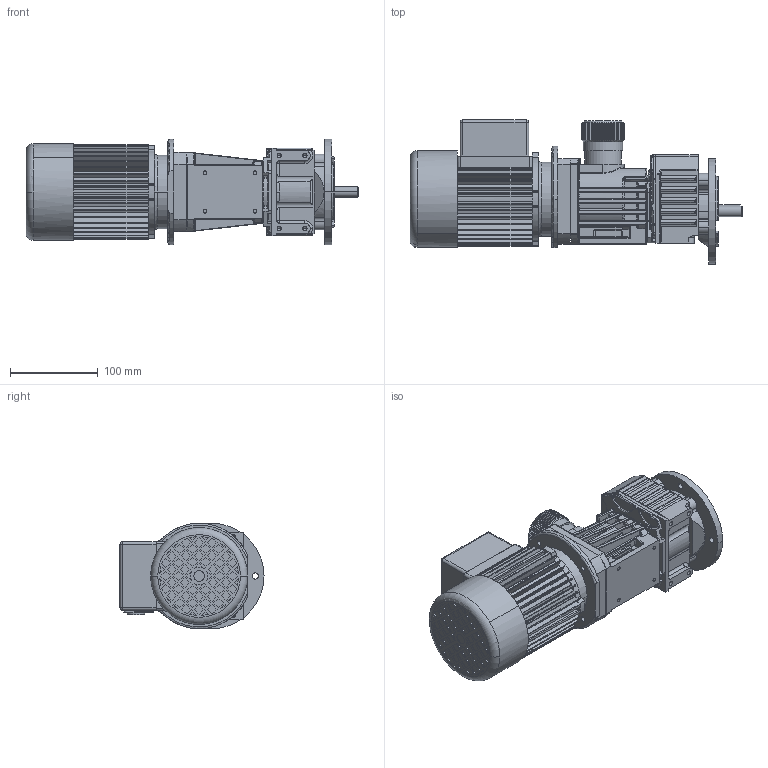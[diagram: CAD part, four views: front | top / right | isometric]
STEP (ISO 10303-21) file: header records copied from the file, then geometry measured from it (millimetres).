
FILE_DESCRIPTION(('CoCreate Modeling STEP Export'),'2;1');
FILE_NAME('K22_BF_B5_Standardstelleinrichtung_180W_Motor.stp','2010-09-07T13:42:48',(''),(''),'CoCreate Modeling STEP processor for AP214 (Solid Model)','CoCreate Modeling 16.00C 25-Feb-2009 (C) Parametric Technology GmbH','');
FILE_SCHEMA(('AUTOMOTIVE_DESIGN { 1 0 10303 214 1 1 1 1 }'));
Products named in the file (3): K22_BF_B5_Standardstelleinrichtung; 180W_Motor; K22_BF_B5_Standardstelleinrichtung_180W_Motor
Assembly tree (2 placements, depth 2):
  K22_BF_B5_Standardstelleinrichtung_180W_Motor
    180W_Motor
    K22_BF_B5_Standardstelleinrichtung
Bounding box: 377.61 x 163.8 x 120 mm (x, y, z)
Volume: 2965013 mm3; surface area: 282419.6 mm2
Topology: 2 solids, 7 shells, 2394 faces, 6139 edges, 3743 vertices
Faces by surface type: plane 940, cylinder 905, bspline 270, torus 156, sphere 73, cone 32, extrusion 18
Entity records: 125527 total; most frequent: CARTESIAN_POINT 61739, ORIENTED_EDGE 12042, DIRECTION 8830, EDGE_CURVE 6021, VERTEX_POINT 3743, AXIS2_PLACEMENT_3D 3030, VECTOR 2770, LINE 2750
